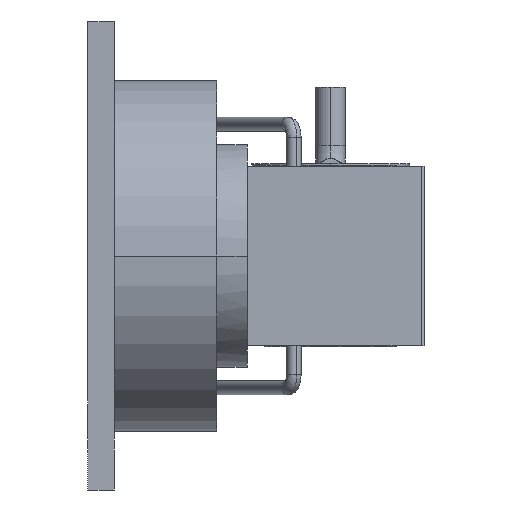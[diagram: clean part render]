
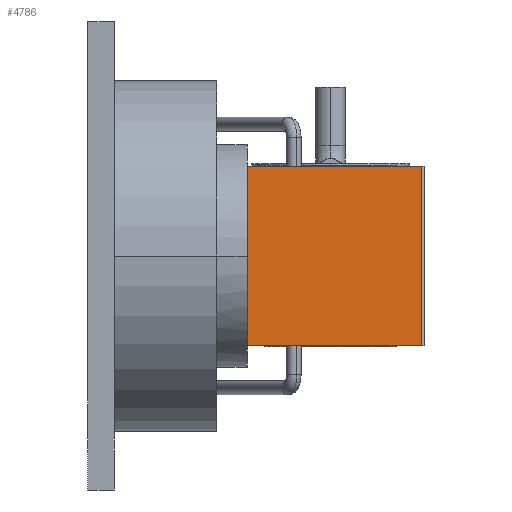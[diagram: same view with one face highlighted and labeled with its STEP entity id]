
A CAD part, left-side view. The second image highlights one B-rep face of the part: STEP entity #4786.
In plain terms, the highlighted planar face has unit normal (-1, 0, 0).
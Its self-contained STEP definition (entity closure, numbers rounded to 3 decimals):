
#714=DIRECTION('',(0.,-1.,0.));
#715=VECTOR('',#714,29.72);
#716=CARTESIAN_POINT('',(-66.675,15.115,-15.365));
#717=LINE('',#716,#715);
#779=DIRECTION('',(0.,0.,-1.));
#780=VECTOR('',#779,4.11);
#781=CARTESIAN_POINT('',(-66.675,15.115,-11.255));
#782=LINE('',#781,#780);
#1096=DIRECTION('',(0.,0.,1.));
#1097=VECTOR('',#1096,22.509);
#1098=CARTESIAN_POINT('',(-66.675,15.115,-11.255));
#1099=LINE('',#1098,#1097);
#1100=DIRECTION('',(0.,-1.,0.));
#1101=VECTOR('',#1100,29.72);
#1102=CARTESIAN_POINT('',(-66.675,15.115,15.365));
#1103=LINE('',#1102,#1101);
#1104=DIRECTION('',(0.,0.,1.));
#1105=VECTOR('',#1104,30.73);
#1106=CARTESIAN_POINT('',(-66.675,-14.605,-15.365));
#1107=LINE('',#1106,#1105);
#1136=DIRECTION('',(0.,0.,-1.));
#1137=VECTOR('',#1136,4.11);
#1138=CARTESIAN_POINT('',(-66.675,15.115,15.365));
#1139=LINE('',#1138,#1137);
#3111=CARTESIAN_POINT('',(-66.675,-14.605,-15.365));
#3112=CARTESIAN_POINT('',(-66.675,-14.605,15.365));
#3113=VERTEX_POINT('',#3111);
#3114=VERTEX_POINT('',#3112);
#3119=CARTESIAN_POINT('',(-66.675,15.115,-15.365));
#3120=VERTEX_POINT('',#3119);
#3121=CARTESIAN_POINT('',(-66.675,15.115,15.365));
#3122=VERTEX_POINT('',#3121);
#3557=CARTESIAN_POINT('',(-66.675,15.115,-11.255));
#3559=VERTEX_POINT('',#3557);
#3568=CARTESIAN_POINT('',(-66.675,15.115,11.255));
#3570=VERTEX_POINT('',#3568);
#4771=CARTESIAN_POINT('',(-66.675,-15.115,-15.365));
#4772=DIRECTION('',(-1.,0.,0.));
#4773=DIRECTION('',(0.,0.,1.));
#4774=AXIS2_PLACEMENT_3D('',#4771,#4772,#4773);
#4775=PLANE('',#4774);
#4777=ORIENTED_EDGE('',*,*,#4776,.T.);
#4779=ORIENTED_EDGE('',*,*,#4778,.F.);
#4780=ORIENTED_EDGE('',*,*,#4655,.T.);
#4781=ORIENTED_EDGE('',*,*,#4765,.F.);
#4782=ORIENTED_EDGE('',*,*,#4338,.F.);
#4783=ORIENTED_EDGE('',*,*,#4381,.F.);
#4784=EDGE_LOOP('',(#4777,#4779,#4780,#4781,#4782,#4783));
#4785=FACE_OUTER_BOUND('',#4784,.F.);
#4786=ADVANCED_FACE('',(#4785),#4775,.T.);
#4338=EDGE_CURVE('',#3120,#3113,#717,.T.);
#4381=EDGE_CURVE('',#3559,#3120,#782,.T.);
#4655=EDGE_CURVE('',#3122,#3114,#1103,.T.);
#4765=EDGE_CURVE('',#3113,#3114,#1107,.T.);
#4776=EDGE_CURVE('',#3559,#3570,#1099,.T.);
#4778=EDGE_CURVE('',#3122,#3570,#1139,.T.);
